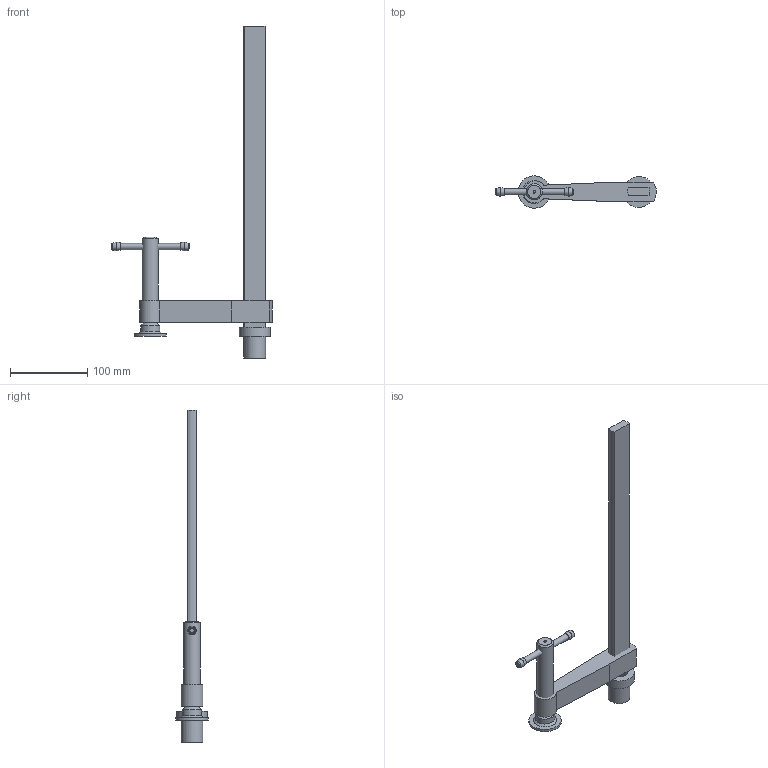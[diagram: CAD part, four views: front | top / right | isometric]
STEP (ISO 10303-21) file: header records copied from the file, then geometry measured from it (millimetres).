
FILE_DESCRIPTION( ('This file contains a STEP AP42 implementation' ,'as created by ZW3D STEP Interface translator.') ,'2;1' );
FILE_NAME( 'TW28-30-12K.stp' ,'14 317.1257 6', (''), ('ZWCAD Software Co.'), 'Version 1.0', 'ZW3D to STEP translator', '' );
FILE_SCHEMA( ('CONFIG_CONTROL_DESIGN') );
Length unit declared in the file: millimetre
Products named in the file (2): 0; 3205299 - TW28-30-12K unten
Bounding box: 207.6 x 41.7 x 429 mm (x, y, z)
Volume: 297450.8 mm3; surface area: 72101.8 mm2
Topology: 4 solids, 4 shells, 42 faces, 83 edges, 51 vertices
Faces by surface type: bspline 42
Entity records: 1486 total; most frequent: CARTESIAN_POINT 903, ORIENTED_EDGE 166, EDGE_CURVE 83, VERTEX_POINT 51, EDGE_LOOP 50, FACE_OUTER_BOUND 42, ADVANCED_FACE 42, OVER_RIDING_STYLED_ITEM 42
